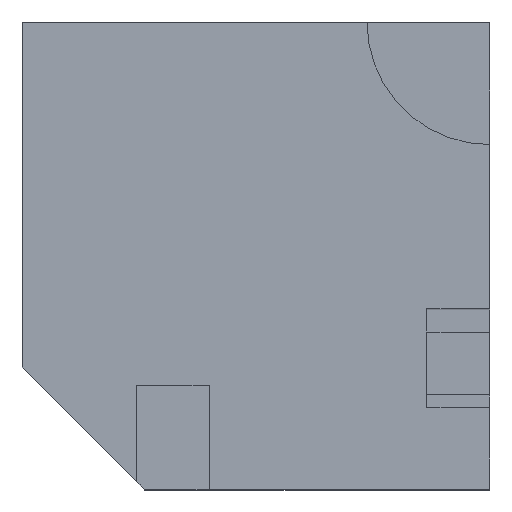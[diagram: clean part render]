
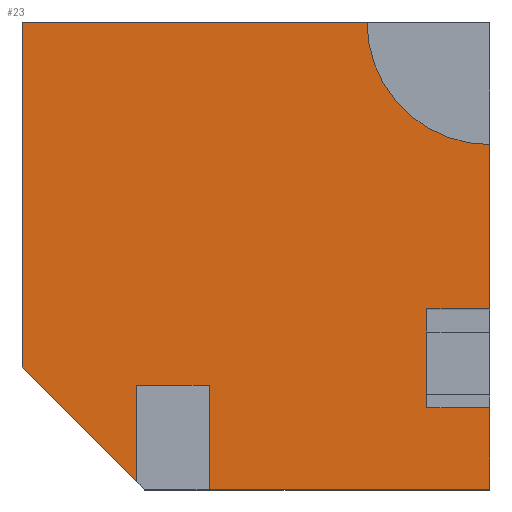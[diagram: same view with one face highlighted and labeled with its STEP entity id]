
A CAD part, top view. The second image highlights one B-rep face of the part: STEP entity #23.
In plain terms, the highlighted planar face has unit normal (0, 0, 1).
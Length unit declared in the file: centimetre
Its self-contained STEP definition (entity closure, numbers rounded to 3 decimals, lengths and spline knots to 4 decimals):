
#7 = CIRCLE ( 'NONE', #421, 262.4532 ) ;
#12 = CARTESIAN_POINT ( 'NONE',  ( 865.6667, 174.4328, 1000. ) ) ;
#15 = LINE ( 'NONE', #30, #594 ) ;
#21 = CARTESIAN_POINT ( 'NONE',  ( 865.6667, 386.114, 1000. ) ) ;
#23 = ADVANCED_FACE ( 'NONE', ( #536 ), #120, .T. ) ;
#30 = CARTESIAN_POINT ( 'NONE',  ( 0., 1000., 1000. ) ) ;
#34 = VECTOR ( 'NONE', #269, 100. ) ;
#40 = EDGE_CURVE ( 'NONE', #125, #60, #279, .T. ) ;
#43 = DIRECTION ( 'NONE',  ( 1., 0., 0. ) ) ;
#44 = EDGE_CURVE ( 'NONE', #515, #700, #459, .T. ) ;
#48 = DIRECTION ( 'NONE',  ( -1., 0., 0. ) ) ;
#49 = VECTOR ( 'NONE', #669, 100. ) ;
#58 = ORIENTED_EDGE ( 'NONE', *, *, #414, .T. ) ;
#60 = VERTEX_POINT ( 'NONE', #760 ) ;
#81 = LINE ( 'NONE', #465, #144 ) ;
#86 = CARTESIAN_POINT ( 'NONE',  ( 0., 1000., 1000. ) ) ;
#88 = ORIENTED_EDGE ( 'NONE', *, *, #542, .T. ) ;
#93 = LINE ( 'NONE', #577, #165 ) ;
#97 = DIRECTION ( 'NONE',  ( 1., 0., 0. ) ) ;
#98 = VERTEX_POINT ( 'NONE', #661 ) ;
#105 = ORIENTED_EDGE ( 'NONE', *, *, #444, .F. ) ;
#118 = ORIENTED_EDGE ( 'NONE', *, *, #44, .F. ) ;
#120 = PLANE ( 'NONE',  #768 ) ;
#125 = VERTEX_POINT ( 'NONE', #164 ) ;
#129 = EDGE_CURVE ( 'NONE', #515, #715, #420, .T. ) ;
#138 = CARTESIAN_POINT ( 'NONE',  ( 0., 1000., 1000. ) ) ;
#139 = DIRECTION ( 'NONE',  ( 0., -1., 0. ) ) ;
#141 = DIRECTION ( 'NONE',  ( 0.707, -0.707, 0. ) ) ;
#144 = VECTOR ( 'NONE', #470, 100. ) ;
#147 = VERTEX_POINT ( 'NONE', #249 ) ;
#164 = CARTESIAN_POINT ( 'NONE',  ( 244.5567, 222.8237, 1000. ) ) ;
#165 = VECTOR ( 'NONE', #139, 100. ) ;
#198 = CARTESIAN_POINT ( 'NONE',  ( 1000., 1000., 1000. ) ) ;
#202 = LINE ( 'NONE', #691, #448 ) ;
#203 = CARTESIAN_POINT ( 'NONE',  ( 244.5567, 0., 1000. ) ) ;
#228 = LINE ( 'NONE', #711, #490 ) ;
#229 = CARTESIAN_POINT ( 'NONE',  ( 865.6667, 174.4328, 1000. ) ) ;
#235 = VECTOR ( 'NONE', #455, 100. ) ;
#244 = ORIENTED_EDGE ( 'NONE', *, *, #526, .F. ) ;
#249 = CARTESIAN_POINT ( 'NONE',  ( 0., 261.5371, 1000. ) ) ;
#256 = ORIENTED_EDGE ( 'NONE', *, *, #129, .T. ) ;
#264 = DIRECTION ( 'NONE',  ( 0., -1., 0. ) ) ;
#269 = DIRECTION ( 'NONE',  ( 1., 0., 0. ) ) ;
#274 = VERTEX_POINT ( 'NONE', #366 ) ;
#279 = LINE ( 'NONE', #203, #708 ) ;
#280 = CARTESIAN_POINT ( 'NONE',  ( 1000., 386.114, 1000. ) ) ;
#295 = DIRECTION ( 'NONE',  ( 0., 0., 1. ) ) ;
#302 = EDGE_CURVE ( 'NONE', #770, #764, #434, .T. ) ;
#318 = CARTESIAN_POINT ( 'NONE',  ( 1000., 737.5468, 1000. ) ) ;
#324 = LINE ( 'NONE', #737, #34 ) ;
#337 = ORIENTED_EDGE ( 'NONE', *, *, #472, .F. ) ;
#346 = ORIENTED_EDGE ( 'NONE', *, *, #440, .F. ) ;
#366 = CARTESIAN_POINT ( 'NONE',  ( 1000., 0., 1000. ) ) ;
#369 = ORIENTED_EDGE ( 'NONE', *, *, #780, .T. ) ;
#374 = DIRECTION ( 'NONE',  ( 0., 1., 0. ) ) ;
#393 = CARTESIAN_POINT ( 'NONE',  ( 399.6184, 0., 1000. ) ) ;
#404 = VERTEX_POINT ( 'NONE', #687 ) ;
#407 = ORIENTED_EDGE ( 'NONE', *, *, #302, .F. ) ;
#414 = EDGE_CURVE ( 'NONE', #535, #274, #324, .T. ) ;
#420 = LINE ( 'NONE', #732, #800 ) ;
#421 = AXIS2_PLACEMENT_3D ( 'NONE', #642, #646, #97 ) ;
#425 = VERTEX_POINT ( 'NONE', #86 ) ;
#434 = LINE ( 'NONE', #229, #49 ) ;
#440 = EDGE_CURVE ( 'NONE', #535, #404, #81, .T. ) ;
#444 = EDGE_CURVE ( 'NONE', #98, #715, #7, .T. ) ;
#448 = VECTOR ( 'NONE', #141, 100. ) ;
#450 = VECTOR ( 'NONE', #566, 100. ) ;
#455 = DIRECTION ( 'NONE',  ( 0., 1., 0. ) ) ;
#459 = LINE ( 'NONE', #21, #482 ) ;
#465 = CARTESIAN_POINT ( 'NONE',  ( 399.6184, 0., 1000. ) ) ;
#470 = DIRECTION ( 'NONE',  ( 0., 1., 0. ) ) ;
#472 = EDGE_CURVE ( 'NONE', #404, #125, #228, .T. ) ;
#482 = VECTOR ( 'NONE', #524, 100. ) ;
#490 = VECTOR ( 'NONE', #48, 100. ) ;
#508 = LINE ( 'NONE', #138, #450 ) ;
#515 = VERTEX_POINT ( 'NONE', #280 ) ;
#524 = DIRECTION ( 'NONE',  ( -1., 0., 0. ) ) ;
#525 = DIRECTION ( 'NONE',  ( 0., -1., 0. ) ) ;
#526 = EDGE_CURVE ( 'NONE', #700, #770, #93, .T. ) ;
#530 = ORIENTED_EDGE ( 'NONE', *, *, #571, .T. ) ;
#535 = VERTEX_POINT ( 'NONE', #393 ) ;
#536 = FACE_OUTER_BOUND ( 'NONE', #543, .T. ) ;
#542 = EDGE_CURVE ( 'NONE', #425, #147, #15, .T. ) ;
#543 = EDGE_LOOP ( 'NONE', ( #118, #256, #105, #675, #88, #369, #793, #337, #346, #58, #530, #407, #244 ) ) ;
#557 = CARTESIAN_POINT ( 'NONE',  ( 1000., 174.4328, 1000. ) ) ;
#560 = CARTESIAN_POINT ( 'NONE',  ( 865.6667, 386.114, 1000. ) ) ;
#566 = DIRECTION ( 'NONE',  ( -1., 0., 0. ) ) ;
#571 = EDGE_CURVE ( 'NONE', #274, #764, #752, .T. ) ;
#577 = CARTESIAN_POINT ( 'NONE',  ( 865.6667, 174.4328, 1000. ) ) ;
#583 = CARTESIAN_POINT ( 'NONE',  ( 0., 0., 1000. ) ) ;
#594 = VECTOR ( 'NONE', #264, 100. ) ;
#642 = CARTESIAN_POINT ( 'NONE',  ( 1000., 1000., 1000. ) ) ;
#646 = DIRECTION ( 'NONE',  ( 0., 0., 1. ) ) ;
#661 = CARTESIAN_POINT ( 'NONE',  ( 737.5468, 1000., 1000. ) ) ;
#669 = DIRECTION ( 'NONE',  ( 1., 0., 0. ) ) ;
#675 = ORIENTED_EDGE ( 'NONE', *, *, #689, .T. ) ;
#687 = CARTESIAN_POINT ( 'NONE',  ( 399.6184, 222.8237, 1000. ) ) ;
#689 = EDGE_CURVE ( 'NONE', #98, #425, #508, .T. ) ;
#691 = CARTESIAN_POINT ( 'NONE',  ( 130.7686, 130.7686, 1000. ) ) ;
#700 = VERTEX_POINT ( 'NONE', #560 ) ;
#708 = VECTOR ( 'NONE', #525, 100. ) ;
#711 = CARTESIAN_POINT ( 'NONE',  ( 244.5567, 222.8237, 1000. ) ) ;
#715 = VERTEX_POINT ( 'NONE', #318 ) ;
#732 = CARTESIAN_POINT ( 'NONE',  ( 1000., 1000., 1000. ) ) ;
#737 = CARTESIAN_POINT ( 'NONE',  ( 0., 0., 1000. ) ) ;
#752 = LINE ( 'NONE', #198, #235 ) ;
#760 = CARTESIAN_POINT ( 'NONE',  ( 244.5567, 16.9805, 1000. ) ) ;
#764 = VERTEX_POINT ( 'NONE', #557 ) ;
#768 = AXIS2_PLACEMENT_3D ( 'NONE', #583, #295, #43 ) ;
#770 = VERTEX_POINT ( 'NONE', #12 ) ;
#780 = EDGE_CURVE ( 'NONE', #147, #60, #202, .T. ) ;
#793 = ORIENTED_EDGE ( 'NONE', *, *, #40, .F. ) ;
#800 = VECTOR ( 'NONE', #374, 100. ) ;
